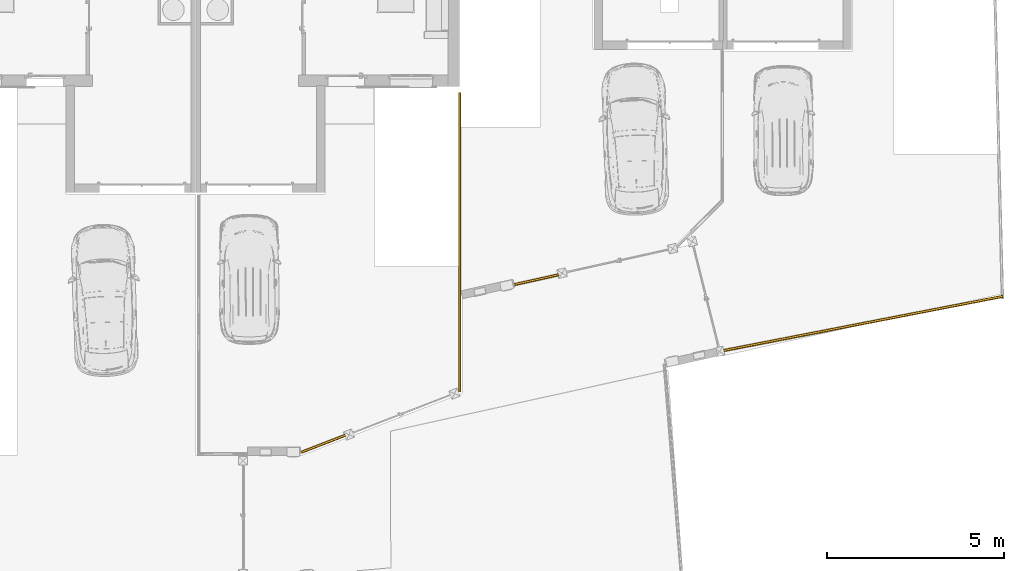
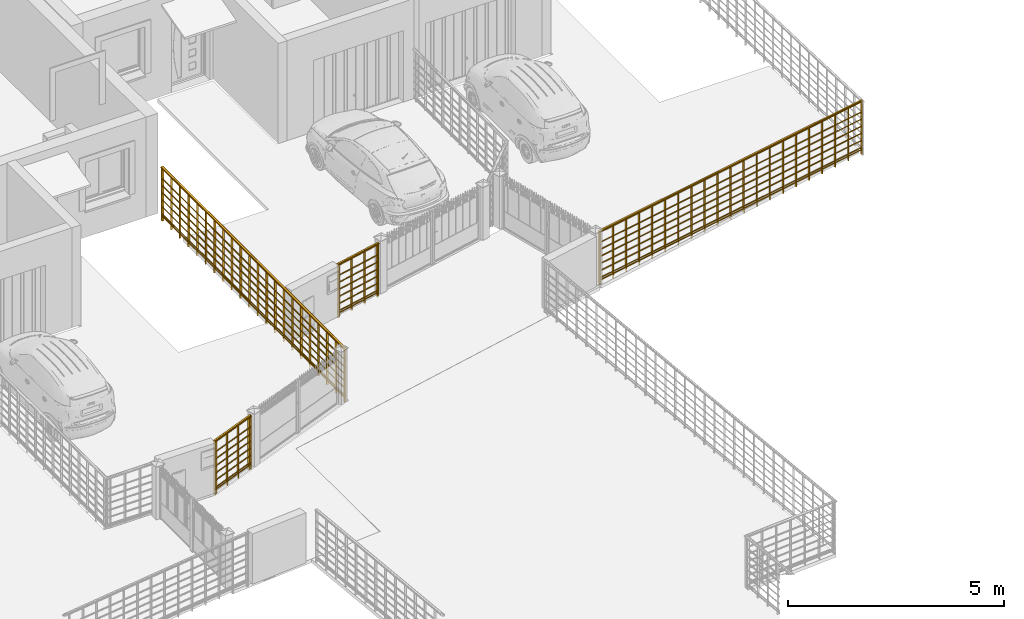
# One storey, part 26 of 33: 4 railings.
"""IFC2X3 building model written with IfcOpenShell, lengths in metres."""

from ifc_helpers import new_model, entity, si_unit, converted_unit, derived_unit, direction, frame, frame_2d, origin, origin_2d_with_axis, place, context, subcontext, project, spatial, polyline, rectangle, circle, outline, extrude, material, material_list, element, save


model = new_model("IFC2X3")

# Units and contexts
model_context = context("Model", 3, precision=1e-05, world=origin(), true_north=direction((6.12303176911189e-17, 1.0)))
context_of_model = context(None, 3, precision=1e-05, world=origin(), true_north=direction((6.12303176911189e-17, 1.0)))
body_context = subcontext(model_context, "Body", "Model", "MODEL_VIEW")
ifc_project = project(units=[si_unit("LENGTHUNIT", "METRE"), si_unit("AREAUNIT", "SQUARE_METRE"), si_unit("VOLUMEUNIT", "CUBIC_METRE"), converted_unit("PLANEANGLEUNIT", "DEGREE", entity("IfcRatioMeasure", 0.0174532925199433), si_unit("PLANEANGLEUNIT", "RADIAN"), dimensions=[0, 0, 0, 0, 0, 0, 0]), si_unit("MASSUNIT", "GRAM", prefix="KILO"), si_unit("TIMEUNIT", "SECOND"), si_unit("FREQUENCYUNIT", "HERTZ"), si_unit("THERMODYNAMICTEMPERATUREUNIT", "DEGREE_CELSIUS"), derived_unit("THERMALTRANSMITTANCEUNIT", [(si_unit("MASSUNIT", "GRAM", prefix="KILO"), 1), (si_unit("THERMODYNAMICTEMPERATUREUNIT", "KELVIN"), -1), (si_unit("TIMEUNIT", "SECOND"), -3)]), derived_unit("VOLUMETRICFLOWRATEUNIT", [(si_unit("LENGTHUNIT", "METRE"), 3), (si_unit("TIMEUNIT", "SECOND"), -1)]), si_unit("ELECTRICCURRENTUNIT", "AMPERE"), si_unit("ELECTRICVOLTAGEUNIT", "VOLT"), si_unit("POWERUNIT", "WATT"), si_unit("FORCEUNIT", "NEWTON", prefix="KILO"), si_unit("ILLUMINANCEUNIT", "LUX"), si_unit("LUMINOUSFLUXUNIT", "LUMEN"), si_unit("LUMINOUSINTENSITYUNIT", "CANDELA"), si_unit("PRESSUREUNIT", "PASCAL")], contexts=[model_context, context_of_model])

# Site, building, storey
site_placement = place(None, origin())
site = spatial("IfcSite", under=ifc_project, at=site_placement, Name="Surface", CompositionType="ELEMENT")
building_placement = place(site_placement, origin())
building = spatial("IfcBuilding", under=site, at=building_placement, CompositionType="ELEMENT")
storey_placement = place(building_placement, origin())
storey = spatial("IfcBuildingStorey", under=building, at=storey_placement, Name="Plan des fondations  Maisons 1 et 2", CompositionType="ELEMENT", Elevation=0.0)

# Railings
ifc_material_1 = material(Name="Bois")
ifc_material_2 = material(Name="Finition Peinture Grise")
ifc_material_list_1 = material_list([ifc_material_1, ifc_material_2])
railing_1_placement = place(building_placement, origin())
element("IfcRailing", 1, at=railing_1_placement, inside=storey, material=ifc_material_list_1, Name="Garde-corps:Type Bateau 1,50 m", ObjectType="Garde-corps:Type Bateau 1,50 m", PredefinedType="NOTDEFINED", context=body_context, shape_type="SweptSolid", body=[
    extrude(rectangle(XDim=0.0500000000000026, YDim=0.0140000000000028, at=origin_2d_with_axis()), frame((83.7610835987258, 72.4244664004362, -0.1), z_axis=(0.0, 0.0, 1.0), x_axis=(0.190584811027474, -0.981670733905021, 0.0)), (0.0, 0.0, 1.0), 1.46984653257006),
    extrude(rectangle(XDim=0.0500000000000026, YDim=0.0140000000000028, at=frame_2d((-8.50361447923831e-15, 1.65058938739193e-15), x_axis=(1.0, 0.0))), frame((84.1537518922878, 72.5007003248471, -0.1), z_axis=(0.0, 0.0, 1.0), x_axis=(0.190584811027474, -0.981670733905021, 0.0)), (0.0, 0.0, 1.0), 1.46984653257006),
    extrude(rectangle(XDim=0.0500000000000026, YDim=0.0140000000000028, at=origin_2d_with_axis()), frame((84.5464201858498, 72.5769342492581, -0.1), z_axis=(0.0, 0.0, 1.0), x_axis=(0.190584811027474, -0.981670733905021, 0.0)), (0.0, 0.0, 1.0), 1.46984653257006),
    extrude(rectangle(XDim=0.0500000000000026, YDim=0.0140000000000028, at=origin_2d_with_axis()), frame((84.9390884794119, 72.653168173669, -0.1), z_axis=(0.0, 0.0, 1.0), x_axis=(0.190584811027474, -0.981670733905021, 0.0)), (0.0, 0.0, 1.0), 1.46984653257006),
    extrude(rectangle(XDim=0.0500000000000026, YDim=0.0140000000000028, at=origin_2d_with_axis()), frame((85.3317567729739, 72.7294020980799, -0.1), z_axis=(0.0, 0.0, 1.0), x_axis=(0.190584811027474, -0.981670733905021, 0.0)), (0.0, 0.0, 1.0), 1.46984653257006),
    extrude(rectangle(XDim=0.0500000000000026, YDim=0.0140000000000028, at=frame_2d((-8.50361447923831e-15, 1.65058938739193e-15), x_axis=(1.0, 0.0))), frame((85.7244250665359, 72.8056360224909, -0.1), z_axis=(0.0, 0.0, 1.0), x_axis=(0.190584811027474, -0.981670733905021, 0.0)), (0.0, 0.0, 1.0), 1.46984653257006),
    extrude(rectangle(XDim=0.0500000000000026, YDim=0.0140000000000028, at=frame_2d((8.50361447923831e-15, -1.65058938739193e-15), x_axis=(1.0, 0.0))), frame((86.1170933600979, 72.8818699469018, -0.1), z_axis=(0.0, 0.0, 1.0), x_axis=(0.190584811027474, -0.981670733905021, 0.0)), (0.0, 0.0, 1.0), 1.46984653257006),
    extrude(rectangle(XDim=0.0500000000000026, YDim=0.0140000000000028, at=origin_2d_with_axis()), frame((86.5097616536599, 72.9581038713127, -0.1), z_axis=(0.0, 0.0, 1.0), x_axis=(0.190584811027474, -0.981670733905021, 0.0)), (0.0, 0.0, 1.0), 1.46984653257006),
    extrude(rectangle(XDim=0.0500000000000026, YDim=0.0140000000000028, at=origin_2d_with_axis()), frame((86.9024299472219, 73.0343377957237, -0.1), z_axis=(0.0, 0.0, 1.0), x_axis=(0.190584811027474, -0.981670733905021, 0.0)), (0.0, 0.0, 1.0), 1.46984653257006),
    extrude(rectangle(XDim=0.0500000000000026, YDim=0.0140000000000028, at=frame_2d((-8.50361447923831e-15, 1.65058938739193e-15), x_axis=(1.0, 0.0))), frame((87.295098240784, 73.1105717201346, -0.1), z_axis=(0.0, 0.0, 1.0), x_axis=(0.190584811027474, -0.981670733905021, 0.0)), (0.0, 0.0, 1.0), 1.46984653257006),
    extrude(rectangle(XDim=0.0500000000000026, YDim=0.0140000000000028, at=origin_2d_with_axis()), frame((87.687766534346, 73.1868056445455, -0.1), z_axis=(0.0, 0.0, 1.0), x_axis=(0.190584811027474, -0.981670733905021, 0.0)), (0.0, 0.0, 1.0), 1.46984653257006),
    extrude(rectangle(XDim=0.0500000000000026, YDim=0.0140000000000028, at=origin_2d_with_axis()), frame((88.080434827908, 73.2630395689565, -0.1), z_axis=(0.0, 0.0, 1.0), x_axis=(0.190584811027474, -0.981670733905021, 0.0)), (0.0, 0.0, 1.0), 1.46984653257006),
    extrude(rectangle(XDim=0.0500000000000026, YDim=0.0140000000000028, at=origin_2d_with_axis()), frame((88.47310312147, 73.3392734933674, -0.1), z_axis=(0.0, 0.0, 1.0), x_axis=(0.190584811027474, -0.981670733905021, 0.0)), (0.0, 0.0, 1.0), 1.46984653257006),
    extrude(rectangle(XDim=0.0500000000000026, YDim=0.0140000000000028, at=origin_2d_with_axis()), frame((88.865771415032, 73.4155074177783, -0.1), z_axis=(0.0, 0.0, 1.0), x_axis=(0.190584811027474, -0.981670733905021, 0.0)), (0.0, 0.0, 1.0), 1.46984653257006),
    extrude(rectangle(XDim=0.0500000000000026, YDim=0.0140000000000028, at=frame_2d((-8.50361447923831e-15, 1.65058938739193e-15), x_axis=(1.0, 0.0))), frame((89.2584397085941, 73.4917413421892, -0.1), z_axis=(0.0, 0.0, 1.0), x_axis=(0.190584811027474, -0.981670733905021, 0.0)), (0.0, 0.0, 1.0), 1.46984653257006),
    extrude(rectangle(XDim=0.0500000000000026, YDim=0.0140000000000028, at=frame_2d((8.50361447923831e-15, -1.65058938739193e-15), x_axis=(1.0, 0.0))), frame((89.6511080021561, 73.5679752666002, -0.1), z_axis=(0.0, 0.0, 1.0), x_axis=(0.190584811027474, -0.981670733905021, 0.0)), (0.0, 0.0, 1.0), 1.46984653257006),
    extrude(rectangle(XDim=0.0500000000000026, YDim=0.0140000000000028, at=origin_2d_with_axis()), frame((90.0437762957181, 73.6442091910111, -0.1), z_axis=(0.0, 0.0, 1.0), x_axis=(0.190584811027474, -0.981670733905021, 0.0)), (0.0, 0.0, 1.0), 1.46984653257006),
    extrude(rectangle(XDim=0.0500000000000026, YDim=0.0140000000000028, at=origin_2d_with_axis()), frame((90.4364445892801, 73.7204431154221, -0.1), z_axis=(0.0, 0.0, 1.0), x_axis=(0.190584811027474, -0.981670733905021, 0.0)), (0.0, 0.0, 1.0), 1.46984653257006),
    extrude(rectangle(XDim=0.0500000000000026, YDim=0.0140000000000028, at=frame_2d((-8.50361447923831e-15, 1.65058938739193e-15), x_axis=(1.0, 0.0))), frame((90.8291128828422, 73.796677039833, -0.1), z_axis=(0.0, 0.0, 1.0), x_axis=(0.190584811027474, -0.981670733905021, 0.0)), (0.0, 0.0, 1.0), 1.46984653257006),
    extrude(rectangle(XDim=0.0500000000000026, YDim=0.0140000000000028, at=origin_2d_with_axis()), frame((91.2217811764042, 73.8729109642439, -0.1), z_axis=(0.0, 0.0, 1.0), x_axis=(0.190584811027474, -0.981670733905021, 0.0)), (0.0, 0.0, 1.0), 1.46984653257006),
    extrude(rectangle(XDim=0.0500000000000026, YDim=0.0140000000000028, at=origin_2d_with_axis()), frame((91.6144494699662, 73.9491448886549, -0.1), z_axis=(0.0, 0.0, 1.0), x_axis=(0.190584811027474, -0.981670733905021, 0.0)), (0.0, 0.0, 1.0), 1.46984653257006),
    extrude(rectangle(XDim=0.0500000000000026, YDim=0.0140000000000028, at=origin_2d_with_axis()), frame((83.7417761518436, 72.4207179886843, -0.1), z_axis=(0.0, 0.0, 1.0), x_axis=(0.190584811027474, -0.981670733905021, 0.0)), (0.0, 0.0, 1.0), 1.46984653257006),
    extrude(rectangle(XDim=0.0500000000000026, YDim=0.0140000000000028, at=frame_2d((-8.50361447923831e-15, 1.65058938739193e-15), x_axis=(1.0, 0.0))), frame((91.6337569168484, 73.9528933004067, -0.1), z_axis=(0.0, 0.0, 1.0), x_axis=(0.190584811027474, -0.981670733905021, 0.0)), (0.0, 0.0, 1.0), 1.46984653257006),
    extrude(outline(polyline([(-0.0109067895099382, -0.038484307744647), (0.00177588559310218, -0.038484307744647), (0.0141514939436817, -0.0318300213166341), (0.0240801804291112, -0.0196720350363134), (0.0298451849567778, -0.00411257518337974), (0.0304496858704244, 0.0121579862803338), (0.0257891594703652, 0.0263263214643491), (0.0166694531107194, 0.0359425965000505), (0.0109067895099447, 0.0384843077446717), (-0.00177588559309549, 0.0384843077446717), (-0.014151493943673, 0.0318300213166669), (-0.0240801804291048, 0.0196720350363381), (-0.0298451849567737, 0.00411257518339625), (-0.0304496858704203, -0.0121579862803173), (-0.0257891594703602, -0.0263263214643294), (-0.0166694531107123, -0.0359425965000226), (-0.0109067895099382, -0.038484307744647)])), frame((83.7332120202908, 72.4185469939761, 1.4), z_axis=(0.98167073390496, 0.190584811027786, 0.0), x_axis=(-0.0519667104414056, 0.267671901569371, -0.962107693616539)), (0.0, 0.0, 1.0), 8.05933589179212),
    extrude(circle(Radius=0.015, at=origin_2d_with_axis()), frame((83.7332120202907, 72.4185469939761, 0.025), z_axis=(0.981670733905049, 0.190584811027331, 0.0), x_axis=(-0.190584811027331, 0.981670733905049, 0.0)), (0.0, 0.0, 1.0), 8.05933589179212),
    extrude(circle(Radius=0.015, at=origin_2d_with_axis()), frame((83.7332120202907, 72.4185469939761, 1.085), z_axis=(0.981670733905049, 0.190584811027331, 0.0), x_axis=(-0.190584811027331, 0.981670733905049, 0.0)), (0.0, 0.0, 1.0), 8.05933589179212),
    extrude(circle(Radius=0.015, at=origin_2d_with_axis()), frame((83.7332120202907, 72.4185469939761, 0.885), z_axis=(0.981670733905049, 0.190584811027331, 0.0), x_axis=(-0.190584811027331, 0.981670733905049, 0.0)), (0.0, 0.0, 1.0), 8.05933589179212),
    extrude(circle(Radius=0.015, at=origin_2d_with_axis()), frame((83.7332120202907, 72.4185469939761, 0.685), z_axis=(0.981670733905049, 0.190584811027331, 0.0), x_axis=(-0.190584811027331, 0.981670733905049, 0.0)), (0.0, 0.0, 1.0), 8.05933589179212),
    extrude(circle(Radius=0.015, at=origin_2d_with_axis()), frame((83.7332120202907, 72.4185469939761, 0.485), z_axis=(0.981670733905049, 0.190584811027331, 0.0), x_axis=(-0.190584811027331, 0.981670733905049, 0.0)), (0.0, 0.0, 1.0), 8.05933589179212),
    extrude(circle(Radius=0.015, at=origin_2d_with_axis()), frame((83.7332120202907, 72.4185469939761, 0.285), z_axis=(0.981670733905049, 0.190584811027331, 0.0), x_axis=(-0.190584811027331, 0.981670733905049, 0.0)), (0.0, 0.0, 1.0), 8.05933589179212),
    extrude(circle(Radius=0.015, at=origin_2d_with_axis()), frame((83.7332120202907, 72.4185469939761, 0.085), z_axis=(0.981670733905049, 0.190584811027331, 0.0), x_axis=(-0.190584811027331, 0.981670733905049, 0.0)), (0.0, 0.0, 1.0), 8.05933589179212),
])
ifc_material_list_2 = material_list([ifc_material_1, ifc_material_2])
railing_2_placement = place(building_placement, origin())
element("IfcRailing", 2, at=railing_2_placement, inside=storey, material=ifc_material_list_2, Name="Garde-corps:Type Bateau 1,50 m", ObjectType="Garde-corps:Type Bateau 1,50 m", PredefinedType="NOTDEFINED", context=body_context, shape_type="SweptSolid", body=[
    extrude(rectangle(XDim=0.0499999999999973, YDim=0.0139999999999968, at=frame_2d((4.32986979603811e-15, 0.0), x_axis=(1.0, 0.0))), frame((76.296994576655, 79.6864015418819, -0.1), z_axis=(0.0, 0.0, 1.0), x_axis=(-1.0, 0.0, 0.0)), (0.0, 0.0, 1.0), 1.46984653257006),
    extrude(rectangle(XDim=0.0499999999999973, YDim=0.0139999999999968, at=frame_2d((4.32986979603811e-15, 0.0), x_axis=(1.0, 0.0))), frame((76.296994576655, 79.2864015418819, -0.1), z_axis=(0.0, 0.0, 1.0), x_axis=(-1.0, 0.0, 0.0)), (0.0, 0.0, 1.0), 1.46984653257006),
    extrude(rectangle(XDim=0.0499999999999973, YDim=0.0139999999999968, at=frame_2d((4.32986979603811e-15, 0.0), x_axis=(1.0, 0.0))), frame((76.296994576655, 78.8864015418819, -0.1), z_axis=(0.0, 0.0, 1.0), x_axis=(-1.0, 0.0, 0.0)), (0.0, 0.0, 1.0), 1.46984653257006),
    extrude(rectangle(XDim=0.0499999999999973, YDim=0.0139999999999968, at=frame_2d((-4.32986979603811e-15, 0.0), x_axis=(1.0, 0.0))), frame((76.296994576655, 78.4864015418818, -0.1), z_axis=(0.0, 0.0, 1.0), x_axis=(-1.0, 0.0, 0.0)), (0.0, 0.0, 1.0), 1.46984653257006),
    extrude(rectangle(XDim=0.0499999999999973, YDim=0.0139999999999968, at=frame_2d((-4.32986979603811e-15, 0.0), x_axis=(1.0, 0.0))), frame((76.296994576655, 78.0864015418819, -0.1), z_axis=(0.0, 0.0, 1.0), x_axis=(-1.0, 0.0, 0.0)), (0.0, 0.0, 1.0), 1.46984653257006),
    extrude(rectangle(XDim=0.0499999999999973, YDim=0.0139999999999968, at=frame_2d((-4.32986979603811e-15, 0.0), x_axis=(1.0, 0.0))), frame((76.296994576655, 77.6864015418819, -0.1), z_axis=(0.0, 0.0, 1.0), x_axis=(-1.0, 0.0, 0.0)), (0.0, 0.0, 1.0), 1.46984653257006),
    extrude(rectangle(XDim=0.0499999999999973, YDim=0.0139999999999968, at=frame_2d((-4.32986979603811e-15, 0.0), x_axis=(1.0, 0.0))), frame((76.296994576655, 77.2864015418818, -0.1), z_axis=(0.0, 0.0, 1.0), x_axis=(-1.0, 0.0, 0.0)), (0.0, 0.0, 1.0), 1.46984653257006),
    extrude(rectangle(XDim=0.0499999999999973, YDim=0.0139999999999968, at=frame_2d((-4.32986979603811e-15, 0.0), x_axis=(1.0, 0.0))), frame((76.296994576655, 76.8864015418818, -0.1), z_axis=(0.0, 0.0, 1.0), x_axis=(-1.0, 0.0, 0.0)), (0.0, 0.0, 1.0), 1.46984653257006),
    extrude(rectangle(XDim=0.0499999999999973, YDim=0.0139999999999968, at=frame_2d((-4.32986979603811e-15, 0.0), x_axis=(1.0, 0.0))), frame((76.296994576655, 76.4864015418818, -0.1), z_axis=(0.0, 0.0, 1.0), x_axis=(-1.0, 0.0, 0.0)), (0.0, 0.0, 1.0), 1.46984653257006),
    extrude(rectangle(XDim=0.0499999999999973, YDim=0.0139999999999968, at=frame_2d((-4.32986979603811e-15, 0.0), x_axis=(1.0, 0.0))), frame((76.296994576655, 76.0864015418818, -0.1), z_axis=(0.0, 0.0, 1.0), x_axis=(-1.0, 0.0, 0.0)), (0.0, 0.0, 1.0), 1.46984653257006),
    extrude(rectangle(XDim=0.0499999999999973, YDim=0.0139999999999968, at=frame_2d((-4.32986979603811e-15, 0.0), x_axis=(1.0, 0.0))), frame((76.296994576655, 75.6864015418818, -0.1), z_axis=(0.0, 0.0, 1.0), x_axis=(-1.0, 0.0, 0.0)), (0.0, 0.0, 1.0), 1.46984653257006),
    extrude(rectangle(XDim=0.0499999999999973, YDim=0.0139999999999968, at=frame_2d((-4.32986979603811e-15, 0.0), x_axis=(1.0, 0.0))), frame((76.296994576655, 75.2864015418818, -0.1), z_axis=(0.0, 0.0, 1.0), x_axis=(-1.0, 0.0, 0.0)), (0.0, 0.0, 1.0), 1.46984653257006),
    extrude(rectangle(XDim=0.0499999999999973, YDim=0.0139999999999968, at=frame_2d((-4.32986979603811e-15, 0.0), x_axis=(1.0, 0.0))), frame((76.296994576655, 74.8864015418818, -0.1), z_axis=(0.0, 0.0, 1.0), x_axis=(-1.0, 0.0, 0.0)), (0.0, 0.0, 1.0), 1.46984653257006),
    extrude(rectangle(XDim=0.0499999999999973, YDim=0.0139999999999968, at=frame_2d((-4.32986979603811e-15, 0.0), x_axis=(1.0, 0.0))), frame((76.296994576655, 74.4864015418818, -0.1), z_axis=(0.0, 0.0, 1.0), x_axis=(-1.0, 0.0, 0.0)), (0.0, 0.0, 1.0), 1.46984653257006),
    extrude(rectangle(XDim=0.0499999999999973, YDim=0.0139999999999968, at=frame_2d((-4.32986979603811e-15, 0.0), x_axis=(1.0, 0.0))), frame((76.296994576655, 74.0864015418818, -0.1), z_axis=(0.0, 0.0, 1.0), x_axis=(-1.0, 0.0, 0.0)), (0.0, 0.0, 1.0), 1.46984653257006),
    extrude(rectangle(XDim=0.0499999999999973, YDim=0.0139999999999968, at=frame_2d((-4.32986979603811e-15, 0.0), x_axis=(1.0, 0.0))), frame((76.296994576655, 73.6864015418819, -0.1), z_axis=(0.0, 0.0, 1.0), x_axis=(-1.0, 0.0, 0.0)), (0.0, 0.0, 1.0), 1.46984653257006),
    extrude(rectangle(XDim=0.0499999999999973, YDim=0.0139999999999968, at=frame_2d((-4.32986979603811e-15, 0.0), x_axis=(1.0, 0.0))), frame((76.296994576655, 73.2864015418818, -0.1), z_axis=(0.0, 0.0, 1.0), x_axis=(-1.0, 0.0, 0.0)), (0.0, 0.0, 1.0), 1.46984653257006),
    extrude(rectangle(XDim=0.0499999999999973, YDim=0.0139999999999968, at=frame_2d((-4.32986979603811e-15, 0.0), x_axis=(1.0, 0.0))), frame((76.296994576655, 72.8864015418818, -0.1), z_axis=(0.0, 0.0, 1.0), x_axis=(-1.0, 0.0, 0.0)), (0.0, 0.0, 1.0), 1.46984653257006),
    extrude(rectangle(XDim=0.0499999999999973, YDim=0.0139999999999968, at=frame_2d((-4.32986979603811e-15, 0.0), x_axis=(1.0, 0.0))), frame((76.296994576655, 72.4864015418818, -0.1), z_axis=(0.0, 0.0, 1.0), x_axis=(-1.0, 0.0, 0.0)), (0.0, 0.0, 1.0), 1.46984653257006),
    extrude(rectangle(XDim=0.0499999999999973, YDim=0.0139999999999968, at=frame_2d((-4.32986979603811e-15, 0.0), x_axis=(1.0, 0.0))), frame((76.296994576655, 72.0864015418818, -0.1), z_axis=(0.0, 0.0, 1.0), x_axis=(-1.0, 0.0, 0.0)), (0.0, 0.0, 1.0), 1.46984653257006),
    extrude(rectangle(XDim=0.0499999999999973, YDim=0.0139999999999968, at=frame_2d((-4.32986979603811e-15, 0.0), x_axis=(1.0, 0.0))), frame((76.296994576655, 71.6864015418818, -0.1), z_axis=(0.0, 0.0, 1.0), x_axis=(-1.0, 0.0, 0.0)), (0.0, 0.0, 1.0), 1.46984653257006),
    extrude(rectangle(XDim=0.0499999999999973, YDim=0.0139999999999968, at=frame_2d((-4.32986979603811e-15, 0.0), x_axis=(1.0, 0.0))), frame((76.296994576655, 71.2864015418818, -0.1), z_axis=(0.0, 0.0, 1.0), x_axis=(-1.0, 0.0, 0.0)), (0.0, 0.0, 1.0), 1.46984653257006),
    extrude(rectangle(XDim=0.0499999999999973, YDim=0.0139999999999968, at=frame_2d((4.32986979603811e-15, 0.0), x_axis=(1.0, 0.0))), frame((76.296994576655, 79.7087030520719, -0.1), z_axis=(0.0, 0.0, 1.0), x_axis=(-1.0, 0.0, 0.0)), (0.0, 0.0, 1.0), 1.46984653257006),
    extrude(rectangle(XDim=0.0499999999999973, YDim=0.0139999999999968, at=frame_2d((-4.32986979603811e-15, 0.0), x_axis=(1.0, 0.0))), frame((76.296994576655, 71.2641000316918, -0.1), z_axis=(0.0, 0.0, 1.0), x_axis=(-1.0, 0.0, 0.0)), (0.0, 0.0, 1.0), 1.46984653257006),
    extrude(outline(polyline([(-0.0109067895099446, -0.0384843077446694), (0.00177588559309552, -0.0384843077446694), (0.0141514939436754, -0.0318300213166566), (0.0240801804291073, -0.0196720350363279), (0.0298451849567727, -0.00411257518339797), (0.0304496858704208, 0.0121579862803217), (0.0257891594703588, 0.0263263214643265), (0.0166694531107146, 0.0359425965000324), (0.0109067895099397, 0.0384843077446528), (-0.00177588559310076, 0.0384843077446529), (-0.0141514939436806, 0.0318300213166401), (-0.0240801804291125, 0.0196720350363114), (-0.0298451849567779, 0.00411257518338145), (-0.0304496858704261, -0.0121579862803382), (-0.025789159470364, -0.026326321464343), (-0.0166694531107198, -0.035942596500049), (-0.0109067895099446, -0.0384843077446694)])), frame((76.2964955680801, 71.2529209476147, 1.4), z_axis=(0.0, 1.0, 0.0), x_axis=(0.27266973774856, 0.0, 0.962107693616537)), (0.0, 0.0, 1.0), 8.46460302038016),
    extrude(circle(Radius=0.015, at=origin_2d_with_axis()), frame((76.29649556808, 71.2529209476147, 0.025), z_axis=(0.0, 1.0, 0.0), x_axis=(1.0, 0.0, 0.0)), (0.0, 0.0, 1.0), 8.46460302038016),
    extrude(circle(Radius=0.015, at=origin_2d_with_axis()), frame((76.29649556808, 71.2529209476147, 1.085), z_axis=(0.0, 1.0, 0.0), x_axis=(1.0, 0.0, 0.0)), (0.0, 0.0, 1.0), 8.46460302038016),
    extrude(circle(Radius=0.015, at=origin_2d_with_axis()), frame((76.29649556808, 71.2529209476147, 0.885), z_axis=(0.0, 1.0, 0.0), x_axis=(1.0, 0.0, 0.0)), (0.0, 0.0, 1.0), 8.46460302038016),
    extrude(circle(Radius=0.015, at=origin_2d_with_axis()), frame((76.29649556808, 71.2529209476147, 0.685), z_axis=(0.0, 1.0, 0.0), x_axis=(1.0, 0.0, 0.0)), (0.0, 0.0, 1.0), 8.46460302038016),
    extrude(circle(Radius=0.015, at=origin_2d_with_axis()), frame((76.29649556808, 71.2529209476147, 0.485), z_axis=(0.0, 1.0, 0.0), x_axis=(1.0, 0.0, 0.0)), (0.0, 0.0, 1.0), 8.46460302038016),
    extrude(circle(Radius=0.015, at=origin_2d_with_axis()), frame((76.29649556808, 71.2529209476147, 0.285), z_axis=(0.0, 1.0, 0.0), x_axis=(1.0, 0.0, 0.0)), (0.0, 0.0, 1.0), 8.46460302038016),
    extrude(circle(Radius=0.015, at=origin_2d_with_axis()), frame((76.29649556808, 71.2529209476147, 0.085), z_axis=(0.0, 1.0, 0.0), x_axis=(1.0, 0.0, 0.0)), (0.0, 0.0, 1.0), 8.46460302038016),
])
ifc_material_list_3 = material_list([ifc_material_1, ifc_material_2])
railing_3_placement = place(building_placement, origin())
element("IfcRailing", 3, at=railing_3_placement, inside=storey, material=ifc_material_list_3, Name="Garde-corps:Type Bateau 1,50 m", ObjectType="Garde-corps:Type Bateau 1,50 m", PredefinedType="NOTDEFINED", context=body_context, shape_type="SweptSolid", body=[
    extrude(rectangle(XDim=0.0500000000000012, YDim=0.0140000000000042, at=frame_2d((4.22752111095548e-15, -9.38051719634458e-16), x_axis=(1.0, 0.0))), frame((79.052178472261, 74.5529988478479, -0.1), z_axis=(0.0, 0.0, 1.0), x_axis=(-0.216439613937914, 0.976296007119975, 0.0)), (0.0, 0.0, 1.0), 1.46984653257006),
    extrude(rectangle(XDim=0.0500000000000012, YDim=0.0140000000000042, at=frame_2d((4.22752111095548e-15, -9.38051719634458e-16), x_axis=(1.0, 0.0))), frame((78.661660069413, 74.4664230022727, -0.1), z_axis=(0.0, 0.0, 1.0), x_axis=(-0.216439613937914, 0.976296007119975, 0.0)), (0.0, 0.0, 1.0), 1.46984653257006),
    extrude(rectangle(XDim=0.0500000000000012, YDim=0.0140000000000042, at=frame_2d((4.22752111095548e-15, -9.38051719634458e-16), x_axis=(1.0, 0.0))), frame((78.2711416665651, 74.3798471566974, -0.1), z_axis=(0.0, 0.0, 1.0), x_axis=(-0.216439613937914, 0.976296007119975, 0.0)), (0.0, 0.0, 1.0), 1.46984653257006),
    extrude(rectangle(XDim=0.050000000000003, YDim=0.0140000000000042, at=frame_2d((5.16774123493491e-15, 3.29163779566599e-15), x_axis=(1.0, 0.0))), frame((77.8806232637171, 74.2932713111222, -0.1), z_axis=(0.0, 0.0, 1.0), x_axis=(-0.216439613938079, 0.976296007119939, 0.0)), (0.0, 0.0, 1.0), 1.46984653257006),
    extrude(rectangle(XDim=0.0500000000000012, YDim=0.0140000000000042, at=frame_2d((4.22752111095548e-15, -9.38051719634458e-16), x_axis=(1.0, 0.0))), frame((79.085725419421, 74.5604360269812, -0.1), z_axis=(0.0, 0.0, 1.0), x_axis=(-0.216439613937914, 0.976296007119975, 0.0)), (0.0, 0.0, 1.0), 1.46984653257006),
    extrude(rectangle(XDim=0.050000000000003, YDim=0.0140000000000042, at=frame_2d((-3.28730098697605e-15, 5.16600651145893e-15), x_axis=(1.0, 0.0))), frame((77.8470763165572, 74.2858341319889, -0.1), z_axis=(0.0, 0.0, 1.0), x_axis=(-0.216439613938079, 0.976296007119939, 0.0)), (0.0, 0.0, 1.0), 1.46984653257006),
    extrude(outline(polyline([(-0.0109067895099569, -0.0384843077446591), (0.00177588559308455, -0.0384843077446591), (0.0141514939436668, -0.0318300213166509), (0.0240801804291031, -0.0196720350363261), (0.0298451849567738, -0.0041125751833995), (0.0304496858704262, 0.0121579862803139), (0.025789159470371, 0.0263263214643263), (0.0166694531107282, 0.0359425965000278), (0.010906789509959, 0.0384843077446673), (-0.00177588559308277, 0.0384843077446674), (-0.014151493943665, 0.0318300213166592), (-0.0240801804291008, 0.0196720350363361), (-0.0298451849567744, 0.00411257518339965), (-0.0304496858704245, -0.0121579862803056), (-0.0257891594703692, -0.026326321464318), (-0.0166694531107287, -0.0359425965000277), (-0.0109067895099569, -0.0384843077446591)])), frame((77.8360542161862, 74.2839017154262, 1.4), z_axis=(0.976296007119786, 0.216439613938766, 0.0), x_axis=(0.0590165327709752, -0.266206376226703, 0.962107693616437)), (0.0, 0.0, 1.0), 1.28872290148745),
    extrude(circle(Radius=0.015, at=origin_2d_with_axis()), frame((77.8360542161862, 74.2839017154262, 0.025), z_axis=(0.976296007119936, 0.216439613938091, 0.0), x_axis=(0.216439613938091, -0.976296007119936, 0.0)), (0.0, 0.0, 1.0), 1.28872290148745),
    extrude(circle(Radius=0.015, at=origin_2d_with_axis()), frame((77.8360542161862, 74.2839017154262, 1.085), z_axis=(0.976296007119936, 0.216439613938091, 0.0), x_axis=(0.216439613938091, -0.976296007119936, 0.0)), (0.0, 0.0, 1.0), 1.28872290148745),
    extrude(circle(Radius=0.015, at=origin_2d_with_axis()), frame((77.8360542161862, 74.2839017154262, 0.885), z_axis=(0.976296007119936, 0.216439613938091, 0.0), x_axis=(0.216439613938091, -0.976296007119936, 0.0)), (0.0, 0.0, 1.0), 1.28872290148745),
    extrude(circle(Radius=0.015, at=origin_2d_with_axis()), frame((77.8360542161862, 74.2839017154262, 0.685), z_axis=(0.976296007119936, 0.216439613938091, 0.0), x_axis=(0.216439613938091, -0.976296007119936, 0.0)), (0.0, 0.0, 1.0), 1.28872290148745),
    extrude(circle(Radius=0.015, at=origin_2d_with_axis()), frame((77.8360542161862, 74.2839017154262, 0.485), z_axis=(0.976296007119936, 0.216439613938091, 0.0), x_axis=(0.216439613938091, -0.976296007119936, 0.0)), (0.0, 0.0, 1.0), 1.28872290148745),
    extrude(circle(Radius=0.015, at=origin_2d_with_axis()), frame((77.8360542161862, 74.2839017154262, 0.285), z_axis=(0.976296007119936, 0.216439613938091, 0.0), x_axis=(0.216439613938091, -0.976296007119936, 0.0)), (0.0, 0.0, 1.0), 1.28872290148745),
    extrude(circle(Radius=0.015, at=origin_2d_with_axis()), frame((77.8360542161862, 74.2839017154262, 0.085), z_axis=(0.976296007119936, 0.216439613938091, 0.0), x_axis=(0.216439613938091, -0.976296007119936, 0.0)), (0.0, 0.0, 1.0), 1.28872290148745),
])
ifc_material_list_4 = material_list([ifc_material_1, ifc_material_2])
railing_4_placement = place(building_placement, origin())
element("IfcRailing", 4, at=railing_4_placement, inside=storey, material=ifc_material_list_4, Name="Garde-corps:Type Bateau 1,50 m", ObjectType="Garde-corps:Type Bateau 1,50 m", PredefinedType="NOTDEFINED", context=body_context, shape_type="SweptSolid", body=[
    extrude(rectangle(XDim=0.0500000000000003, YDim=0.014000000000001, at=frame_2d((-5.60489155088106e-15, -2.47241463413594e-15), x_axis=(1.0, 0.0))), frame((72.9980958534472, 70.0023814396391, -0.1), z_axis=(0.0, 0.0, 1.0), x_axis=(-0.361567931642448, 0.932345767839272, 0.0)), (0.0, 0.0, 1.0), 1.46984653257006),
    extrude(rectangle(XDim=0.0500000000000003, YDim=0.014000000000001, at=frame_2d((5.60489155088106e-15, 2.47241463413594e-15), x_axis=(1.0, 0.0))), frame((72.6251575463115, 69.8577542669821, -0.1), z_axis=(0.0, 0.0, 1.0), x_axis=(-0.361567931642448, 0.932345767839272, 0.0)), (0.0, 0.0, 1.0), 1.46984653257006),
    extrude(rectangle(XDim=0.0500000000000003, YDim=0.014000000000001, at=frame_2d((5.60489155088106e-15, 2.47241463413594e-15), x_axis=(1.0, 0.0))), frame((72.2522192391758, 69.7131270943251, -0.1), z_axis=(0.0, 0.0, 1.0), x_axis=(-0.361567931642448, 0.932345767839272, 0.0)), (0.0, 0.0, 1.0), 1.46984653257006),
    extrude(rectangle(XDim=0.0500000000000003, YDim=0.014000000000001, at=frame_2d((-5.60489155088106e-15, -2.47241463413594e-15), x_axis=(1.0, 0.0))), frame((71.8792809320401, 69.5684999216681, -0.1), z_axis=(0.0, 0.0, 1.0), x_axis=(-0.361567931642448, 0.932345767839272, 0.0)), (0.0, 0.0, 1.0), 1.46984653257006),
    extrude(rectangle(XDim=0.0500000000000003, YDim=0.014000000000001, at=frame_2d((5.60489155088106e-15, 2.47241463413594e-15), x_axis=(1.0, 0.0))), frame((73.0540365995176, 70.0240755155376, -0.1), z_axis=(0.0, 0.0, 1.0), x_axis=(-0.361567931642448, 0.932345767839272, 0.0)), (0.0, 0.0, 1.0), 1.46984653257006),
    extrude(rectangle(XDim=0.0500000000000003, YDim=0.014000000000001, at=frame_2d((5.60489155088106e-15, 2.47241463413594e-15), x_axis=(1.0, 0.0))), frame((71.8233401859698, 69.5468058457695, -0.1), z_axis=(0.0, 0.0, 1.0), x_axis=(-0.361567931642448, 0.932345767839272, 0.0)), (0.0, 0.0, 1.0), 1.46984653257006),
    extrude(outline(polyline([(-0.0109067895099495, -0.0384843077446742), (0.00177588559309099, -0.0384843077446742), (0.0141514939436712, -0.0318300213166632), (0.0240801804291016, -0.019672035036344), (0.0298451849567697, -0.00411257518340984), (0.0304496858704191, 0.0121579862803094), (0.0257891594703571, 0.0263263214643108), (0.0166694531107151, 0.0359425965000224), (0.0109067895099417, 0.0384843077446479), (-0.00177588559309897, 0.038484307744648), (-0.0141514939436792, 0.031830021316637), (-0.0240801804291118, 0.0196720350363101), (-0.0298451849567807, 0.00411257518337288), (-0.0304496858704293, -0.0121579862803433), (-0.0257891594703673, -0.0263263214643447), (-0.016669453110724, -0.0359425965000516), (-0.0109067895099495, -0.0384843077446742)])), frame((71.8127369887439, 69.5432290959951, 1.4), z_axis=(0.932345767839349, 0.36156793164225, 0.0), x_axis=(0.098588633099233, -0.254222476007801, 0.962107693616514)), (0.0, 0.0, 1.0), 1.34),
    extrude(circle(Radius=0.015, at=origin_2d_with_axis()), frame((71.8127369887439, 69.5432290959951, 0.025), z_axis=(0.932345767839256, 0.361567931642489, 0.0), x_axis=(0.361567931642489, -0.932345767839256, 0.0)), (0.0, 0.0, 1.0), 1.34),
    extrude(circle(Radius=0.015, at=origin_2d_with_axis()), frame((71.8127369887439, 69.5432290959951, 1.085), z_axis=(0.932345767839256, 0.361567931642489, 0.0), x_axis=(0.361567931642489, -0.932345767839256, 0.0)), (0.0, 0.0, 1.0), 1.34),
    extrude(circle(Radius=0.015, at=origin_2d_with_axis()), frame((71.8127369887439, 69.5432290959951, 0.885), z_axis=(0.932345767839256, 0.361567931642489, 0.0), x_axis=(0.361567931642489, -0.932345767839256, 0.0)), (0.0, 0.0, 1.0), 1.34),
    extrude(circle(Radius=0.015, at=origin_2d_with_axis()), frame((71.8127369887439, 69.5432290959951, 0.685), z_axis=(0.932345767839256, 0.361567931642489, 0.0), x_axis=(0.361567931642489, -0.932345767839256, 0.0)), (0.0, 0.0, 1.0), 1.34),
    extrude(circle(Radius=0.015, at=origin_2d_with_axis()), frame((71.8127369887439, 69.5432290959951, 0.485), z_axis=(0.932345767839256, 0.361567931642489, 0.0), x_axis=(0.361567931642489, -0.932345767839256, 0.0)), (0.0, 0.0, 1.0), 1.34),
    extrude(circle(Radius=0.015, at=origin_2d_with_axis()), frame((71.8127369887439, 69.5432290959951, 0.285), z_axis=(0.932345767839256, 0.361567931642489, 0.0), x_axis=(0.361567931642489, -0.932345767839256, 0.0)), (0.0, 0.0, 1.0), 1.34),
    extrude(circle(Radius=0.015, at=origin_2d_with_axis()), frame((71.8127369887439, 69.5432290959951, 0.085), z_axis=(0.932345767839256, 0.361567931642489, 0.0), x_axis=(0.361567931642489, -0.932345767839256, 0.0)), (0.0, 0.0, 1.0), 1.34),
])

save(model, "model.ifc")
